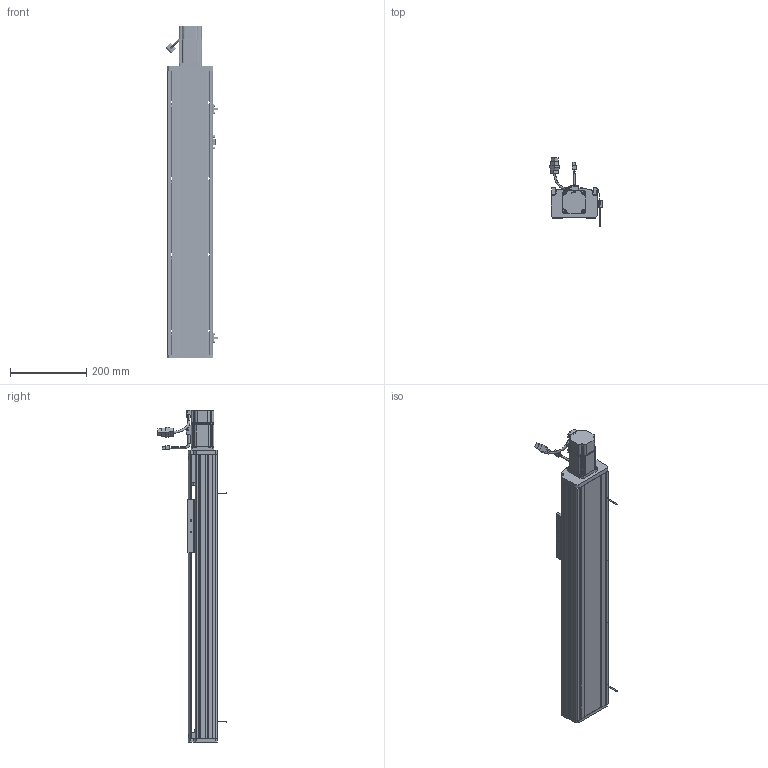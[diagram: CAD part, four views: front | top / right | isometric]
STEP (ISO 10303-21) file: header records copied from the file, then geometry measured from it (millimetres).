
FILE_DESCRIPTION (( 'STEP AP214' ), '1' );
FILE_NAME ('CTH120-500.STEP', '2019-11-20T02:40:31', ( '微软用户' ), ( '微软中国' ), 'SwSTEP 2.0', 'SolidWorks 2017', '' );
FILE_SCHEMA (( 'AUTOMOTIVE_DESIGN' ));
Length unit declared in the file: millimetre
Products named in the file (33): EGH15_RAIL; CTH120-500; 珨极宒粣創釱; 遣喳蝶15x12x8; M4-L10囀鞠褒蹟佪; M4-L22囀鞠褒蹟佪; 7001-DB; 7001; 噩砃EGH15-CA; 粣創揤啣; M3-L8囀鞠褒蹟佪; COL12B-粣遠; CT12耀郪-覜茼んえ; 坶踡蹟譫; EE-SX672-BR; 120耀郪-粣創釱; M4-L6半圆头内六角螺丝; 120耀郪-傷啣; M5-L20囀鞠褒蹟佪; 120模组-盖子_默认<按加工>; M5-L12囀鞠褒蹟佪; 120耀郪-侜督儂啣; 怢湛200W侜督萇儂ECMA-CX0602ES; SFH1605; 盓傅釱蚾饜极; 136蹟簽蟀諉輸; 6000; 120模组-移动座_默认<按加工>; 120耀郪-盓傅釱; SFH1605-450; M4-L16囀鞠褒蹟佪; 120模组-底座_默认<按加工>; EGH15-CA
Assembly tree (90 placements, depth 4):
  CTH120-500
    120模组-底座_默认<按加工>
    SFH1605-450
    120模组-移动座_默认<按加工>
    136蹟簽蟀諉輸
    SFH1605
    120耀郪-侜督儂啣
    120模组-盖子_默认<按加工>
    120耀郪-傷啣
    珨极宒粣創釱
      120耀郪-粣創釱
      坶踡蹟譫
      COL12B-粣遠  x2
      粣創揤啣
      7001-DB
        7001  x2
      M4-L22囀鞠褒蹟佪  x6
      M4-L10囀鞠褒蹟佪  x4
      遣喳蝶15x12x8
    EGH15_RAIL  x2
    EGH15-CA  x2
    M4-L16囀鞠褒蹟佪  x8
    M4-L10囀鞠褒蹟佪  x22
    盓傅釱蚾饜极
      120耀郪-盓傅釱
      6000
      遣喳蝶15x12x8  x2
      M4-L22囀鞠褒蹟佪  x2
    怢湛200W侜督萇儂ECMA-CX0602ES
    M5-L12囀鞠褒蹟佪  x3
    M5-L20囀鞠褒蹟佪  x4
    M4-L6半圆头内六角螺丝  x4
    EE-SX672-BR  x2
    CT12耀郪-覜茼んえ
    M3-L8囀鞠褒蹟佪  x4
    噩砃EGH15-CA  x2
Bounding box: 137.94 x 179.67 x 872 mm (x, y, z)
Volume: 3477440.7 mm3; surface area: 1051809.9 mm2
Topology: 87 solids, 96 shells, 5172 faces, 13599 edges, 8693 vertices
Faces by surface type: plane 2815, cylinder 1494, cone 529, bspline 241, torus 81, sphere 12
Entity records: 108244 total; most frequent: CARTESIAN_POINT 31670, ORIENTED_EDGE 16056, DIRECTION 14609, EDGE_CURVE 8028, VERTEX_POINT 5267, AXIS2_PLACEMENT_3D 4959, VECTOR 4691, LINE 4691
